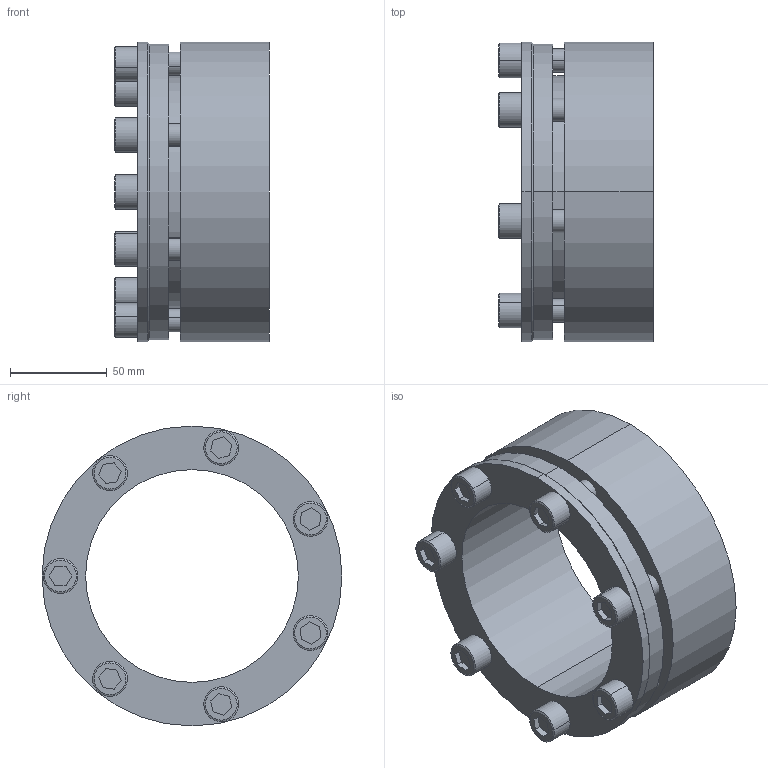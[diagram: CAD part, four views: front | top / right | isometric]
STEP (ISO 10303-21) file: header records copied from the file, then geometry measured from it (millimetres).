
FILE_DESCRIPTION (( 'STEP AP203' ), '1' );
FILE_NAME ('SD-110.step', '2009-09-29T16:24:50', ( 'USER' ), ( 'HOME' ), 'SwSTEP 2.0', 'SolidWorks 2007', '' );
FILE_SCHEMA (( 'CONFIG_CONTROL_DESIGN' ));
Length unit declared in the file: millimetre
Products named in the file (1): SD-110
Bounding box: 80 x 155 x 155 mm (x, y, z)
Volume: 594224.5 mm3; surface area: 117906.6 mm2
Topology: 8 solids, 8 shells, 156 faces, 354 edges, 230 vertices
Faces by surface type: plane 74, cylinder 66, cone 16
Entity records: 4523 total; most frequent: DIRECTION 814, CARTESIAN_POINT 741, ORIENTED_EDGE 708, EDGE_CURVE 354, AXIS2_PLACEMENT_3D 303, VERTEX_POINT 230, VECTOR 208, LINE 208
